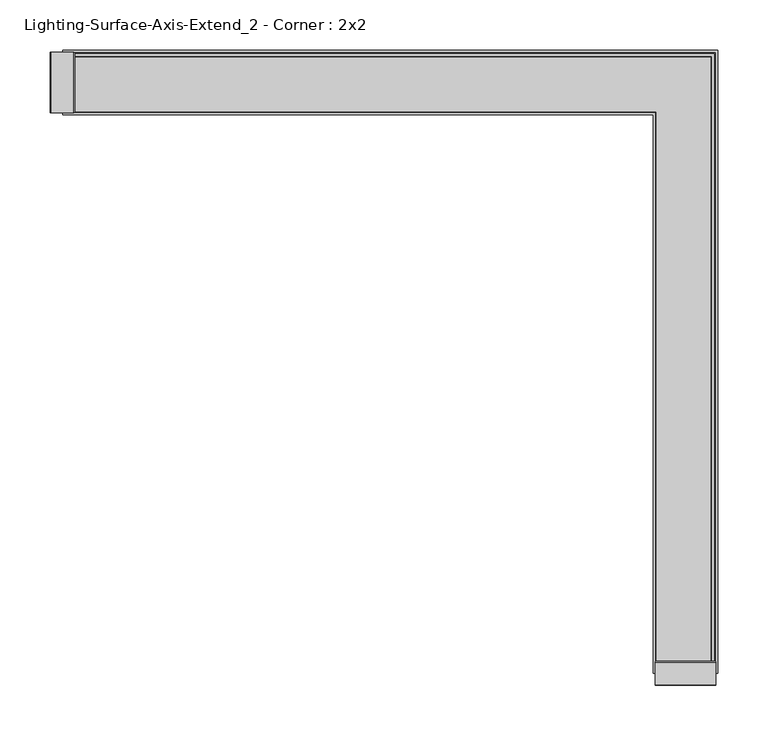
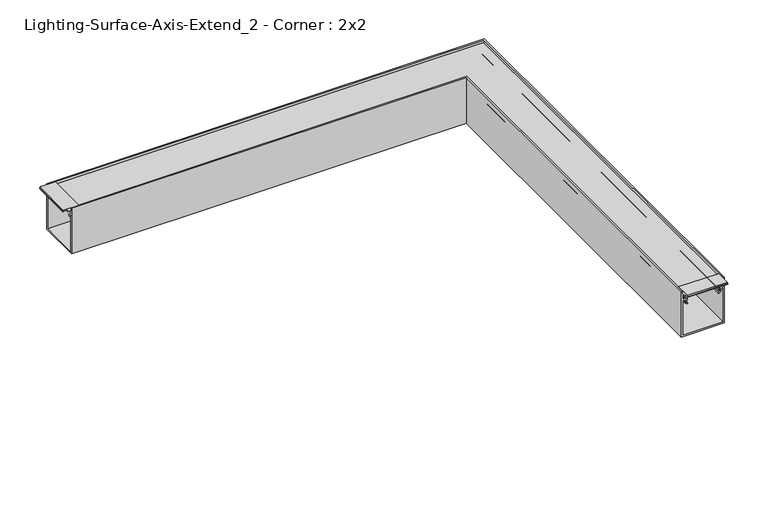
"""IFC4 building model written with IfcOpenShell, lengths in millimetres: light fixture geometry, Lighting-Surface-Axis-Extend_2 - Corner : 2x2."""

from ifc_helpers import new_model, si_unit, frame, origin, place, context, project, spatial, polyline, circle_curve, ellipse_curve, outline, extrude, source, transform, mapped, element, save
from ifc_brep_helpers import plane_surface, cylinder_surface, revolved_surface, advanced_brep


def lighting_surface_axis_extend_2_corner_2x2_7ba75d3a(model_context):
    return source(origin(), model_context, "Body", "SolidModel", [
        extrude(outline(polyline([(-574.6496, 70.3357861), (-574.6496, 68.86575), (-575.44335, 68.86575), (-575.44335, 69.6595), (-581.914, 69.6595), (-581.914, 66.8532981), (-591.5914, 66.8532981), (-591.5914, 69.6595), (-598.06205, 69.6595), (-598.06205, 68.86575), (-598.8558, 68.86575), (-598.8558, 70.3357861), (-597.9312563, 71.4375), (-575.5741437, 71.4375), (-574.6496, 70.3357861)])), frame((274.828, 0.0, 0.0), z_axis=(1.0, 0.0, 0.0), x_axis=(0.0, 1.0, 0.0)), (0.0, 0.0, 1.0), 59.944),
        extrude(outline(polyline([(70.3357861, -301.8536), (71.4375, -302.7781437), (71.4375, -325.1352563), (70.3357861, -326.0598), (68.86575, -326.0598), (68.86575, -325.26605), (69.6595, -325.26605), (69.6595, -318.7954), (66.8532981, -318.7954), (66.8532981, -309.118), (69.6595, -309.118), (69.6595, -302.64735), (68.86575, -302.64735), (68.86575, -301.8536), (70.3357861, -301.8536)])), frame((0.0, -29.972, 0.0), z_axis=(0.0, 1.0, 0.0), x_axis=(0.0, 0.0, 1.0)), (0.0, 0.0, 1.0), 59.944),
        advanced_brep(
        [(-304.8, -24.1727262, 66.5479991), (-304.8, -24.5114181, 60.0853737), (-304.8, -25.3818814, 53.4794903), (-304.8, -24.5665956, 51.9817575), (-304.8, -23.2119066, 50.7823555), (-304.8, -24.192808, 49.4543369), (-304.8, -25.7659952, 50.8471908), (-304.8, -27.1108807, 54.67776), (-304.8, -25.4753941, 58.7169658), (-304.8, -26.1394859, 60.5661789), (-304.8, -25.825992, 66.5479991), (-304.8, -28.829, 66.5479991), (-304.8, -28.829, 68.453), (-304.8, 28.829, 68.453), (-304.8, 28.829, 66.5479991), (-304.8, 25.825992, 66.5479991), (-304.8, 26.1394859, 60.5661789), (-304.8, 25.4753941, 58.7169658), (-304.8, 27.1108807, 54.67776), (-304.8, 25.7659952, 50.8471908), (-304.8, 24.192808, 49.4543369), (-304.8, 23.2119066, 50.7823555), (-304.8, 24.5665956, 51.9817575), (-304.8, 25.3818814, 53.4794903), (-304.8, 24.5114181, 60.0853737), (-304.8, 24.1727262, 66.5479991), (280.6272738, -586.7527, 66.5479991), (328.9727262, -586.7527, 66.5479991), (329.3114181, -586.7527, 60.0853737), (330.1818814, -586.7527, 53.4794903), (329.3665956, -586.7527, 51.9817575), (328.0119066, -586.7527, 50.7823555), (328.992808, -586.7527, 49.4543369), (330.5659952, -586.7527, 50.8471908), (331.9108807, -586.7527, 54.67776), (330.2753941, -586.7527, 58.7169658), (330.9394859, -586.7527, 60.5661789), (330.625992, -586.7527, 66.5479991), (333.629, -586.7527, 66.5479991), (333.629, -586.7527, 68.453), (275.971, -586.7527, 68.453), (275.971, -586.7527, 66.5479991), (278.974008, -586.7527, 66.5479991), (278.6605141, -586.7527, 60.5661789), (279.3246059, -586.7527, 58.7169658), (277.6891193, -586.7527, 54.67776), (279.0340048, -586.7527, 50.8471908), (280.607192, -586.7527, 49.4543369), (281.5880934, -586.7527, 50.7823555), (280.2334044, -586.7527, 51.9817575), (279.4181186, -586.7527, 53.4794903), (280.2885819, -586.7527, 60.0853737), (280.6272738, -24.1727262, 66.5479991), (280.2885819, -24.5114181, 60.0853737), (279.4181186, -25.3818814, 53.4794903), (280.2334044, -24.5665956, 51.9817575), (281.5880934, -23.2119066, 50.7823555), (280.607192, -24.192808, 49.4543369), (279.0340048, -25.7659952, 50.8471908), (277.6891193, -27.1108807, 54.67776), (279.3246059, -25.4753941, 58.7169658), (278.6605141, -26.1394859, 60.5661789), (278.974008, -25.825992, 66.5479991), (275.971, -28.829, 66.5479991), (275.971, -28.829, 68.453), (333.629, 28.829, 68.453), (333.629, 28.829, 66.5479991), (330.625992, 25.825992, 66.5479991), (330.9394859, 26.1394859, 60.5661789), (330.2753941, 25.4753941, 58.7169658), (331.9108807, 27.1108807, 54.67776), (330.5659952, 25.7659952, 50.8471908), (328.992808, 24.192808, 49.4543369), (328.0119066, 23.2119066, 50.7823555), (329.3665956, 24.5665956, 51.9817575), (330.1818814, 25.3818814, 53.4794903), (329.3114181, 24.5114181, 60.0853737), (328.9727262, 24.1727262, 66.5479991)],
        [
            (0, 1),
            (1, 2, circle_curve(frame((-304.8, -27.2542, 57.0865), z_axis=(-1.0, 0.0, 0.0), x_axis=(0.0, 0.6748971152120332, 0.7379118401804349)), 4.064)),
            (2, 3, circle_curve(frame((-304.8, -22.149344, 54.2683457), z_axis=(1.0, 0.0, 0.0), x_axis=(0.0, -0.9714904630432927, -0.23707863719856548)), 3.3274001)),
            (3, 4, circle_curve(frame((-304.8, -17.1303177, 59.0160708), z_axis=(1.0, 0.0, 0.0), x_axis=(0.0, -0.7264901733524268, -0.68717685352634)), 10.2362001)),
            (4, 5, circle_curve(frame((-304.8, -23.7023573, 50.1183462), z_axis=(-1.0, 0.0, 0.0), x_axis=(0.0, 0.5941256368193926, 0.8043722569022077)), 0.8255)),
            (5, 6, circle_curve(frame((-304.8, -17.1303169, 59.0160717), z_axis=(-1.0, 0.0, 0.0), x_axis=(0.0, -0.594125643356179, -0.8043722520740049)), 11.8872013)),
            (6, 7, circle_curve(frame((-304.8, -22.149344, 54.2683457), z_axis=(-1.0, 0.0, 0.0), x_axis=(0.0, -0.7264685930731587, -0.6871996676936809)), 4.9784001)),
            (7, 8, circle_curve(frame((-304.8, -27.2542, 57.0865), z_axis=(1.0, 0.0, 0.0), x_axis=(0.0, 0.05939464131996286, -0.9982345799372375)), 2.413)),
            (8, 9, circle_curve(frame((-304.8, -23.6029669, 60.4332456), z_axis=(-1.0, 0.0, 0.0), x_axis=(0.0, -0.7371760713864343, -0.675700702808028)), 2.54)),
            (9, 10),
            (10, 11),
            (11, 12),
            (12, 13),
            (13, 14),
            (14, 15),
            (15, 16),
            (16, 17, circle_curve(frame((-304.8, 23.6029669, 60.4332456), z_axis=(-1.0, 0.0, 0.0), x_axis=(0.0, 0.9986295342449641, 0.05233596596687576)), 2.54)),
            (17, 18, circle_curve(frame((-304.8, 27.2542, 57.0865), z_axis=(1.0, 0.0, 0.0), x_axis=(0.0, -0.7371760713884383, 0.6757007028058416)), 2.413)),
            (18, 19, circle_curve(frame((-304.8, 22.149344, 54.2683457), z_axis=(-1.0, 0.0, 0.0), x_axis=(0.0, 0.9966127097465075, 0.0822381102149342)), 4.9784001)),
            (19, 20, circle_curve(frame((-304.8, 17.1303169, 59.0160717), z_axis=(-1.0, 0.0, 0.0), x_axis=(0.0, 0.7264685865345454, -0.6871996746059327)), 11.8872013)),
            (20, 21, circle_curve(frame((-304.8, 23.7023573, 50.1183462), z_axis=(-1.0, 0.0, 0.0), x_axis=(0.0, 0.5941256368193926, -0.8043722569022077)), 0.8255)),
            (21, 22, circle_curve(frame((-304.8, 17.1303177, 59.0160708), z_axis=(1.0, 0.0, 0.0), x_axis=(0.0, 0.5941256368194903, -0.8043722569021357)), 10.2362001)),
            (22, 23, circle_curve(frame((-304.8, 22.149344, 54.2683457), z_axis=(1.0, 0.0, 0.0), x_axis=(0.0, 0.7265349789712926, -0.6871294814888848)), 3.3274001)),
            (23, 24, circle_curve(frame((-304.8, 27.2542, 57.0865), z_axis=(-1.0, 0.0, 0.0), x_axis=(0.0, -0.46070831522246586, -0.8875516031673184)), 4.064)),
            (24, 25),
            (25, 0),
            (26, 27),
            (27, 28),
            (28, 29, circle_curve(frame((332.0542, -586.7527, 57.0865), z_axis=(0.0, -1.0, 0.0), x_axis=(-0.46070831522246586, 0.0, -0.8875516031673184)), 4.064)),
            (29, 30, circle_curve(frame((326.949344, -586.7527, 54.2683457), z_axis=(0.0, 1.0, 0.0), x_axis=(0.7265349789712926, 0.0, -0.6871294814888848)), 3.3274001)),
            (30, 31, circle_curve(frame((321.9303177, -586.7527, 59.0160708), z_axis=(0.0, 1.0, 0.0), x_axis=(0.5941256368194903, 0.0, -0.8043722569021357)), 10.2362001)),
            (31, 32, circle_curve(frame((328.5023573, -586.7527, 50.1183462), z_axis=(0.0, -1.0, 0.0), x_axis=(0.5941256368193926, 0.0, -0.8043722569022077)), 0.8255)),
            (32, 33, circle_curve(frame((321.9303169, -586.7527, 59.0160717), z_axis=(0.0, -1.0, 0.0), x_axis=(0.7264685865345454, 0.0, -0.6871996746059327)), 11.8872013)),
            (33, 34, circle_curve(frame((326.949344, -586.7527, 54.2683457), z_axis=(0.0, -1.0, 0.0), x_axis=(0.9966127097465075, 0.0, 0.0822381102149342)), 4.9784001)),
            (34, 35, circle_curve(frame((332.0542, -586.7527, 57.0865), z_axis=(0.0, 1.0, 0.0), x_axis=(-0.7371760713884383, 0.0, 0.6757007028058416)), 2.413)),
            (35, 36, circle_curve(frame((328.4029669, -586.7527, 60.4332456), z_axis=(0.0, -1.0, 0.0), x_axis=(0.9986295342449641, 0.0, 0.05233596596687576)), 2.54)),
            (36, 37),
            (37, 38),
            (38, 39),
            (39, 40),
            (40, 41),
            (41, 42),
            (42, 43),
            (43, 44, circle_curve(frame((281.1970331, -586.7527, 60.4332456), z_axis=(0.0, -1.0, 0.0), x_axis=(-0.7371760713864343, 0.0, -0.675700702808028)), 2.54)),
            (44, 45, circle_curve(frame((277.5458, -586.7527, 57.0865), z_axis=(0.0, 1.0, 0.0), x_axis=(0.05939464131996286, 0.0, -0.9982345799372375)), 2.413)),
            (45, 46, circle_curve(frame((282.650656, -586.7527, 54.2683457), z_axis=(0.0, -1.0, 0.0), x_axis=(-0.7264685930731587, 0.0, -0.6871996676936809)), 4.9784001)),
            (46, 47, circle_curve(frame((287.6696831, -586.7527, 59.0160717), z_axis=(0.0, -1.0, 0.0), x_axis=(-0.594125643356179, 0.0, -0.8043722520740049)), 11.8872013)),
            (47, 48, circle_curve(frame((281.0976427, -586.7527, 50.1183462), z_axis=(0.0, -1.0, 0.0), x_axis=(0.5941256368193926, 0.0, 0.8043722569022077)), 0.8255)),
            (48, 49, circle_curve(frame((287.6696823, -586.7527, 59.0160708), z_axis=(0.0, 1.0, 0.0), x_axis=(-0.7264901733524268, 0.0, -0.68717685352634)), 10.2362001)),
            (49, 50, circle_curve(frame((282.650656, -586.7527, 54.2683457), z_axis=(0.0, 1.0, 0.0), x_axis=(-0.9714904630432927, 0.0, -0.23707863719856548)), 3.3274001)),
            (50, 51, circle_curve(frame((277.5458, -586.7527, 57.0865), z_axis=(0.0, -1.0, 0.0), x_axis=(0.6748971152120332, 0.0, 0.7379118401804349)), 4.064)),
            (51, 26),
            (0, 52),
            (52, 53),
            (53, 1),
            (53, 54, ellipse_curve(frame((277.5458, -27.2542, 57.0865), z_axis=(-0.7071067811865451, 0.7071067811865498, 0.0), x_axis=(-0.70710678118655, -0.7071067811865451, 0.0)), 5.7473639, 4.064)),
            (54, 2),
            (54, 55, ellipse_curve(frame((282.650656, -22.149344, 54.2683457), z_axis=(0.7071067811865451, -0.7071067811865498, 0.0), x_axis=(0.70710678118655, 0.7071067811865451, 0.0)), 4.7056543, 3.3274001)),
            (55, 3),
            (55, 56, ellipse_curve(frame((287.6696823, -17.1303177, 59.0160708), z_axis=(0.7071067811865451, -0.7071067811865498, 0.0), x_axis=(0.70710678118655, 0.7071067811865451, 0.0)), 14.476173, 10.2362001)),
            (56, 4),
            (56, 57, ellipse_curve(frame((281.0976427, -23.7023573, 50.1183462), z_axis=(-0.7071067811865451, 0.7071067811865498, 0.0), x_axis=(-0.70710678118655, -0.7071067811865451, 0.0)), 1.1674333, 0.8255)),
            (57, 5),
            (57, 58, ellipse_curve(frame((287.6696831, -17.1303169, 59.0160717), z_axis=(-0.7071067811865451, 0.7071067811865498, 0.0), x_axis=(-0.70710678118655, -0.7071067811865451, 0.0)), 16.8110412, 11.8872013)),
            (58, 6),
            (58, 59, ellipse_curve(frame((282.650656, -22.149344, 54.2683457), z_axis=(-0.7071067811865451, 0.7071067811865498, 0.0), x_axis=(-0.70710678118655, -0.7071067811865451, 0.0)), 7.0405209, 4.9784001)),
            (59, 7),
            (59, 60, ellipse_curve(frame((277.5458, -27.2542, 57.0865), z_axis=(0.7071067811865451, -0.7071067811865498, 0.0), x_axis=(0.70710678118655, 0.7071067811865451, 0.0)), 3.4124973, 2.413)),
            (60, 8),
            (60, 61, ellipse_curve(frame((281.1970331, -23.6029669, 60.4332456), z_axis=(-0.7071067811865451, 0.7071067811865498, 0.0), x_axis=(-0.70710678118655, -0.7071067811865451, 0.0)), 3.5921024, 2.54)),
            (61, 9),
            (61, 62),
            (62, 10),
            (62, 42),
            (41, 63),
            (63, 11),
            (63, 64),
            (64, 12),
            (64, 40),
            (39, 65),
            (65, 13),
            (65, 66),
            (66, 14),
            (66, 38),
            (37, 67),
            (67, 15),
            (67, 68),
            (68, 16),
            (68, 69, ellipse_curve(frame((328.4029669, 23.6029669, 60.4332456), z_axis=(-0.7071067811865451, 0.7071067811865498, 0.0), x_axis=(-0.70710678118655, -0.7071067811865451, 0.0)), 3.5921024, 2.54)),
            (69, 17),
            (69, 70, ellipse_curve(frame((332.0542, 27.2542, 57.0865), z_axis=(0.7071067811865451, -0.7071067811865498, 0.0), x_axis=(0.70710678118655, 0.7071067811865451, 0.0)), 3.4124973, 2.413)),
            (70, 18),
            (70, 71, ellipse_curve(frame((326.949344, 22.149344, 54.2683457), z_axis=(-0.7071067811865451, 0.7071067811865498, 0.0), x_axis=(-0.70710678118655, -0.7071067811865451, 0.0)), 7.0405209, 4.9784001)),
            (71, 19),
            (71, 72, ellipse_curve(frame((321.9303169, 17.1303169, 59.0160717), z_axis=(-0.7071067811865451, 0.7071067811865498, 0.0), x_axis=(-0.70710678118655, -0.7071067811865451, 0.0)), 16.8110412, 11.8872013)),
            (72, 20),
            (72, 73, ellipse_curve(frame((328.5023573, 23.7023573, 50.1183462), z_axis=(-0.7071067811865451, 0.7071067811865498, 0.0), x_axis=(-0.70710678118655, -0.7071067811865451, 0.0)), 1.1674333, 0.8255)),
            (73, 21),
            (73, 74, ellipse_curve(frame((321.9303177, 17.1303177, 59.0160708), z_axis=(0.7071067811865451, -0.7071067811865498, 0.0), x_axis=(0.70710678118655, 0.7071067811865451, 0.0)), 14.476173, 10.2362001)),
            (74, 22),
            (74, 75, ellipse_curve(frame((326.949344, 22.149344, 54.2683457), z_axis=(0.7071067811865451, -0.7071067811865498, 0.0), x_axis=(0.70710678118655, 0.7071067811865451, 0.0)), 4.7056543, 3.3274001)),
            (75, 23),
            (75, 76, ellipse_curve(frame((332.0542, 27.2542, 57.0865), z_axis=(-0.7071067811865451, 0.7071067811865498, 0.0), x_axis=(-0.70710678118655, -0.7071067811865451, 0.0)), 5.7473639, 4.064)),
            (76, 24),
            (76, 77),
            (77, 25),
            (77, 27),
            (26, 52),
            (51, 53),
            (50, 54),
            (49, 55),
            (48, 56),
            (47, 57),
            (46, 58),
            (45, 59),
            (44, 60),
            (43, 61),
            (36, 68),
            (35, 69),
            (34, 70),
            (33, 71),
            (32, 72),
            (31, 73),
            (30, 74),
            (29, 75),
            (28, 76),
        ],
        [
            plane_surface(frame((-304.8, 0.0, 0.0), z_axis=(-1.0, 0.0, 0.0), x_axis=(0.0, 0.0, 1.0))),
            plane_surface(frame((304.8, -586.7527, 0.0), z_axis=(0.0, -1.0, 0.0), x_axis=(0.0, 0.0, 1.0))),
            plane_surface(frame((-304.8, -24.1727262, 66.5479991), z_axis=(0.0, 0.9986295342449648, -0.05233596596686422), x_axis=(1.0, 0.0, 0.0))),
            cylinder_surface(frame((-304.8, -27.2542, 57.0865), z_axis=(-1.0, 0.0, 0.0), x_axis=(0.0, 0.6748971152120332, 0.7379118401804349)), 4.064),
            revolved_surface(polyline([(285.97805606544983, -25.3818814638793, 53.47949021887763), (-304.8, -25.3818814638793, 53.47949021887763)]), (-304.8, -22.149344, 54.2683457), (1.0000000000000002, 0.0, 0.0)),
            revolved_surface(polyline([(297.9058823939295, -24.566816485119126, 51.981991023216), (-304.8, -24.566816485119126, 51.981991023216)]), (-304.8, -17.1303177, 59.0160708), (1.0, 0.0, 0.0)),
            cylinder_surface(frame((-304.8, -23.7023573, 50.1183462), z_axis=(-1.0, 0.0, 0.0), x_axis=(0.0, 0.5941256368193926, 0.8043722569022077)), 0.8255),
            cylinder_surface(frame((-304.8, -17.1303169, 59.0160717), z_axis=(-1.0, 0.0, 0.0), x_axis=(0.0, -0.594125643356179, -0.8043722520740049)), 11.8872013),
            cylinder_surface(frame((-304.8, -22.149344, 54.2683457), z_axis=(-1.0, 0.0, 0.0), x_axis=(0.0, -0.7264685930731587, -0.6871996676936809)), 4.9784001),
            revolved_surface(polyline([(279.95879998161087, -27.11088073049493, 54.677759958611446), (-304.8, -27.11088073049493, 54.677759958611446)]), (-304.8, -27.2542, 57.0865), (1.0, 0.0, 0.0)),
            cylinder_surface(frame((-304.8, -23.6029669, 60.4332456), z_axis=(-1.0, 0.0, 0.0), x_axis=(0.0, -0.7371760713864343, -0.675700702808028)), 2.54),
            plane_surface(frame((-304.8, -26.1394859, 60.5661789), z_axis=(0.0, -0.9986295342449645, 0.05233596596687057), x_axis=(1.0, 0.0, 0.0))),
            plane_surface(frame((-304.8, -25.825992, 66.5479991), z_axis=(0.0, 0.0, -1.0), x_axis=(1.0, 0.0, 0.0))),
            plane_surface(frame((-304.8, -28.829, 66.5479991), z_axis=(0.0, -1.0, 0.0), x_axis=(1.0, 0.0, 0.0))),
            plane_surface(frame((-304.8, -28.829, 68.453), z_axis=(0.0, 0.0, 1.0), x_axis=(1.0, 0.0, 0.0))),
            plane_surface(frame((-304.8, 28.829, 68.453), z_axis=(0.0, 1.0, 0.0), x_axis=(1.0, 0.0, 0.0))),
            plane_surface(frame((-304.8, 28.829, 66.5479991), z_axis=(0.0, 0.0, -1.0), x_axis=(1.0, 0.0, 0.0))),
            plane_surface(frame((-304.8, 25.825992, 66.5479991), z_axis=(0.0, 0.9986295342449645, 0.05233596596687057), x_axis=(1.0, 0.0, 0.0))),
            cylinder_surface(frame((-304.8, 23.6029669, 60.4332456), z_axis=(-1.0, 0.0, 0.0), x_axis=(0.0, 0.9986295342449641, 0.05233596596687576)), 2.54),
            revolved_surface(polyline([(334.46719998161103, 25.4753941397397, 58.71696579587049), (-304.8, 25.4753941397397, 58.71696579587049)]), (-304.8, 27.2542, 57.0865), (1.0000000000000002, 0.0, 0.0)),
            cylinder_surface(frame((-304.8, 22.149344, 54.2683457), z_axis=(-1.0000000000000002, 0.0, 0.0), x_axis=(0.0, 0.9966127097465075, 0.0822381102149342)), 4.9784001),
            cylinder_surface(frame((-304.8, 17.1303169, 59.0160717), z_axis=(-1.0, 0.0, 0.0), x_axis=(0.0, 0.7264685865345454, -0.6871996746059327)), 11.8872013),
            cylinder_surface(frame((-304.8, 23.7023573, 50.1183462), z_axis=(-1.0, 0.0, 0.0), x_axis=(0.0, 0.5941256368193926, -0.8043722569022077)), 0.8255),
            revolved_surface(polyline([(332.1665177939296, 23.21190660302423, 50.782355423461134), (-304.8, 23.21190660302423, 50.782355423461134)]), (-304.8, 17.1303177, 59.0160708), (1.0, 0.0, 0.0)),
            revolved_surface(polyline([(330.2767440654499, 24.566816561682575, 51.98199099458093), (-304.8, 24.566816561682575, 51.98199099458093)]), (-304.8, 22.149344, 54.2683457), (1.0000000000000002, 0.0, 0.0)),
            cylinder_surface(frame((-304.8, 27.2542, 57.0865), z_axis=(-1.0, 0.0, 0.0), x_axis=(0.0, -0.46070831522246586, -0.8875516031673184)), 4.064),
            plane_surface(frame((-304.8, 24.5114181, 60.0853737), z_axis=(0.0, -0.9986295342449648, -0.05233596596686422), x_axis=(1.0, 0.0, 0.0))),
            plane_surface(frame((-304.8, 24.1727262, 66.5479991), z_axis=(0.0, 0.0, -1.0), x_axis=(1.0, 0.0, 0.0))),
            plane_surface(frame((280.6272738, -24.1727262, 66.5479991), z_axis=(0.9986295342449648, 0.0, -0.05233596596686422), x_axis=(0.0, -1.0, 0.0))),
            cylinder_surface(frame((277.5458, 0.0, 57.0865), z_axis=(0.0, 1.0, 0.0), x_axis=(0.6748971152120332, 0.0, 0.7379118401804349)), 4.064),
            revolved_surface(polyline([(279.41811853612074, -586.7527000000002, 53.47949021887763), (279.41811853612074, -18.82194393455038, 53.47949021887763)]), (282.650656, 0.0, 54.2683457), (0.0, -1.0000000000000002, 0.0)),
            revolved_surface(polyline([(280.23318351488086, -586.7527, 51.981991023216), (280.23318351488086, -6.894117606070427, 51.981991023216)]), (287.6696823, 0.0, 59.0160708), (0.0, -1.0, 0.0)),
            cylinder_surface(frame((281.0976427, 0.0, 50.1183462), z_axis=(0.0, 1.0, 0.0), x_axis=(0.5941256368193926, 0.0, 0.8043722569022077)), 0.8255),
            cylinder_surface(frame((287.6696831, 0.0, 59.0160717), z_axis=(0.0, 1.0, 0.0), x_axis=(-0.594125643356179, 0.0, -0.8043722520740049)), 11.8872013),
            cylinder_surface(frame((282.650656, 0.0, 54.2683457), z_axis=(0.0, 1.0, 0.0), x_axis=(-0.7264685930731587, 0.0, -0.6871996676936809)), 4.9784001),
            revolved_surface(polyline([(277.68911926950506, -586.7527, 54.677759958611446), (277.68911926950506, -24.841200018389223, 54.677759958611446)]), (277.5458, 0.0, 57.0865), (0.0, -1.0, 0.0)),
            cylinder_surface(frame((281.1970331, 0.0, 60.4332456), z_axis=(0.0, 1.0, 0.0), x_axis=(-0.7371760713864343, 0.0, -0.675700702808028)), 2.54),
            plane_surface(frame((278.6605141, -26.1394859, 60.5661789), z_axis=(-0.9986295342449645, 0.0, 0.05233596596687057), x_axis=(0.0, -1.0, 0.0))),
            plane_surface(frame((275.971, -28.829, 66.5479991), z_axis=(-1.0, 0.0, 0.0), x_axis=(0.0, -1.0, 0.0))),
            plane_surface(frame((333.629, 28.829, 68.453), z_axis=(1.0, 0.0, 0.0), x_axis=(0.0, -1.0, 0.0))),
            plane_surface(frame((330.625992, 25.825992, 66.5479991), z_axis=(0.9986295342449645, 0.0, 0.05233596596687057), x_axis=(0.0, -1.0, 0.0))),
            cylinder_surface(frame((328.4029669, 0.0, 60.4332456), z_axis=(0.0, 1.0, 0.0), x_axis=(0.9986295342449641, 0.0, 0.05233596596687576)), 2.54),
            revolved_surface(polyline([(330.27539413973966, -586.7527000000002, 58.71696579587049), (330.27539413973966, 29.667199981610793, 58.71696579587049)]), (332.0542, 0.0, 57.0865), (0.0, -1.0000000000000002, 0.0)),
            cylinder_surface(frame((326.949344, 0.0, 54.2683457), z_axis=(0.0, 1.0000000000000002, 0.0), x_axis=(0.9966127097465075, 0.0, 0.0822381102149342)), 4.9784001),
            cylinder_surface(frame((321.9303169, 0.0, 59.0160717), z_axis=(0.0, 1.0, 0.0), x_axis=(0.7264685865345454, 0.0, -0.6871996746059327)), 11.8872013),
            cylinder_surface(frame((328.5023573, 0.0, 50.1183462), z_axis=(0.0, 1.0, 0.0), x_axis=(0.5941256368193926, 0.0, -0.8043722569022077)), 0.8255),
            revolved_surface(polyline([(328.0119066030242, -586.7527, 50.782355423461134), (328.0119066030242, 27.36651779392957, 50.782355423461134)]), (321.9303177, 0.0, 59.0160708), (0.0, -1.0, 0.0)),
            revolved_surface(polyline([(329.3668165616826, -586.7527000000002, 51.98199099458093), (329.3668165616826, 25.476744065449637, 51.98199099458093)]), (326.949344, 0.0, 54.2683457), (0.0, -1.0000000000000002, 0.0)),
            cylinder_surface(frame((332.0542, 0.0, 57.0865), z_axis=(0.0, 1.0, 0.0), x_axis=(-0.46070831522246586, 0.0, -0.8875516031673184)), 4.064),
            plane_surface(frame((329.3114181, 24.5114181, 60.0853737), z_axis=(-0.9986295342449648, 0.0, -0.05233596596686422), x_axis=(0.0, -1.0, 0.0))),
        ],
        [
            (0, [[1, 2, 3, 4, 5, 6, 7, 8, 9, 10, 11, 12, 13, 14, 15, 16, 17, 18, 19, 20, 21, 22, 23, 24, 25, 26]]),
            (1, [[27, 28, 29, 30, 31, 32, 33, 34, 35, 36, 37, 38, 39, 40, 41, 42, 43, 44, 45, 46, 47, 48, 49, 50, 51, 52]]),
            (2, [[-1, 53, 54, 55]]),
            (3, [[-2, -55, 56, 57]]),
            (4, [[-3, -57, 58, 59]]),
            (5, [[-4, -59, 60, 61]]),
            (6, [[-5, -61, 62, 63]]),
            (7, [[-6, -63, 64, 65]]),
            (8, [[-7, -65, 66, 67]]),
            (9, [[-8, -67, 68, 69]]),
            (10, [[-9, -69, 70, 71]]),
            (11, [[-10, -71, 72, 73]]),
            (12, [[-11, -73, 74, -42, 75, 76]]),
            (13, [[-12, -76, 77, 78]]),
            (14, [[-13, -78, 79, -40, 80, 81]]),
            (15, [[-14, -81, 82, 83]]),
            (16, [[-15, -83, 84, -38, 85, 86]]),
            (17, [[-16, -86, 87, 88]]),
            (18, [[-17, -88, 89, 90]]),
            (19, [[-18, -90, 91, 92]]),
            (20, [[-19, -92, 93, 94]]),
            (21, [[-20, -94, 95, 96]]),
            (22, [[-21, -96, 97, 98]]),
            (23, [[-22, -98, 99, 100]]),
            (24, [[-23, -100, 101, 102]]),
            (25, [[-24, -102, 103, 104]]),
            (26, [[-25, -104, 105, 106]]),
            (27, [[-26, -106, 107, -27, 108, -53]]),
            (28, [[-54, -108, -52, 109]]),
            (29, [[-56, -109, -51, 110]]),
            (30, [[-58, -110, -50, 111]]),
            (31, [[-60, -111, -49, 112]]),
            (32, [[-62, -112, -48, 113]]),
            (33, [[-64, -113, -47, 114]]),
            (34, [[-66, -114, -46, 115]]),
            (35, [[-68, -115, -45, 116]]),
            (36, [[-70, -116, -44, 117]]),
            (37, [[-72, -117, -43, -74]]),
            (38, [[-77, -75, -41, -79]]),
            (39, [[-82, -80, -39, -84]]),
            (40, [[-87, -85, -37, 118]]),
            (41, [[-89, -118, -36, 119]]),
            (42, [[-91, -119, -35, 120]]),
            (43, [[-93, -120, -34, 121]]),
            (44, [[-95, -121, -33, 122]]),
            (45, [[-97, -122, -32, 123]]),
            (46, [[-99, -123, -31, 124]]),
            (47, [[-101, -124, -30, 125]]),
            (48, [[-103, -125, -29, 126]]),
            (49, [[-105, -126, -28, -107]]),
        ],
    ),
        advanced_brep(
        [(-313.9567, -29.972, 56.5277), (-313.9567, -29.972, 2.032), (-313.9567, 29.972, 2.032), (-313.9567, 29.972, 56.5277), (-313.9567, 28.1325797, 56.5277), (-313.9567, 25.8730546, 55.2231626), (-313.9567, 24.6896516, 57.4783682), (-313.9567, 28.067, 60.3123), (-313.9567, 28.067, 58.5597), (-313.9567, 29.972, 58.5597), (-313.9567, 29.972, 65.0875), (-313.9567, 28.067, 65.0875), (-313.9567, 28.067, 63.5635), (-313.9567, 26.416, 63.6500252), (-313.9567, 26.416, 66.3575), (-313.9567, 29.972, 66.3575), (-313.9567, 29.972, 71.4375), (-313.9567, 32.004, 71.4375), (-313.9567, 32.004, 0.0), (-313.9567, -32.004, 0.0), (-313.9567, -32.004, 71.4375), (-313.9567, -29.972, 71.4375), (-313.9567, -29.972, 66.3575), (-313.9567, -26.416, 66.3575), (-313.9567, -26.416, 63.6500252), (-313.9567, -28.067, 63.5635), (-313.9567, -28.067, 65.0875), (-313.9567, -29.972, 65.0875), (-313.9567, -29.972, 58.5597), (-313.9567, -28.067, 58.5597), (-313.9567, -28.067, 60.3123), (-313.9567, -24.6896516, 57.4783682), (-313.9567, -25.8730546, 55.2231626), (-313.9567, -28.1325797, 56.5277), (274.828, -586.7527, 56.5277), (276.6674203, -586.7527, 56.5277), (278.9269454, -586.7527, 55.2231626), (280.1103484, -586.7527, 57.4783682), (276.733, -586.7527, 60.3123), (276.733, -586.7527, 58.5597), (274.828, -586.7527, 58.5597), (274.828, -586.7527, 65.0875), (276.733, -586.7527, 65.0875), (276.733, -586.7527, 63.5635), (278.384, -586.7527, 63.6500252), (278.384, -586.7527, 66.3575), (274.828, -586.7527, 66.3575), (274.828, -586.7527, 71.4375), (272.796, -586.7527, 71.4375), (272.796, -586.7527, 0.0), (336.804, -586.7527, 0.0), (336.804, -586.7527, 71.4375), (334.772, -586.7527, 71.4375), (334.772, -586.7527, 66.3575), (331.216, -586.7527, 66.3575), (331.216, -586.7527, 63.6500252), (332.867, -586.7527, 63.5635), (332.867, -586.7527, 65.0875), (334.772, -586.7527, 65.0875), (334.772, -586.7527, 58.5597), (332.867, -586.7527, 58.5597), (332.867, -586.7527, 60.3123), (329.4896516, -586.7527, 57.4783682), (330.6730546, -586.7527, 55.2231626), (332.9325797, -586.7527, 56.5277), (334.772, -586.7527, 56.5277), (334.772, -586.7527, 2.032), (274.828, -586.7527, 2.032), (274.828, -29.972, 56.5277), (274.828, -29.972, 2.032), (334.772, 29.972, 2.032), (334.772, 29.972, 56.5277), (332.9325797, 28.1325797, 56.5277), (330.6730546, 25.8730546, 55.2231626), (329.4896516, 24.6896516, 57.4783682), (332.867, 28.067, 60.3123), (332.867, 28.067, 58.5597), (334.772, 29.972, 58.5597), (334.772, 29.972, 65.0875), (332.867, 28.067, 65.0875), (332.867, 28.067, 63.5635), (331.216, 26.416, 63.6500252), (331.216, 26.416, 66.3575), (334.772, 29.972, 66.3575), (334.772, 29.972, 71.4375), (336.804, 32.004, 71.4375), (336.804, 32.004, 0.0), (272.796, -32.004, 0.0), (272.796, -32.004, 71.4375), (274.828, -29.972, 71.4375), (274.828, -29.972, 66.3575), (278.384, -26.416, 66.3575), (278.384, -26.416, 63.6500252), (276.733, -28.067, 63.5635), (276.733, -28.067, 65.0875), (274.828, -29.972, 65.0875), (274.828, -29.972, 58.5597), (276.733, -28.067, 58.5597), (276.733, -28.067, 60.3123), (280.1103484, -24.6896516, 57.4783682), (278.9269454, -25.8730546, 55.2231626), (276.6674203, -28.1325797, 56.5277)],
        [
            (0, 1),
            (1, 2),
            (2, 3),
            (3, 4),
            (4, 5, circle_curve(frame((-313.9567, 26.6262297, 56.5277), z_axis=(-1.0, 0.0, 0.0), x_axis=(0.0, -0.5000000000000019, -0.8660254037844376)), 1.5063501)),
            (5, 6, circle_curve(frame((-313.9567, 27.0642121, 57.2863079), z_axis=(-1.0, 0.0, 0.0), x_axis=(0.0, -0.9967449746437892, 0.08061920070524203)), 2.382315)),
            (6, 7),
            (7, 8),
            (8, 9),
            (9, 10),
            (10, 11),
            (11, 12),
            (12, 13),
            (13, 14),
            (14, 15),
            (15, 16),
            (16, 17),
            (17, 18),
            (18, 19),
            (19, 20),
            (20, 21),
            (21, 22),
            (22, 23),
            (23, 24),
            (24, 25),
            (25, 26),
            (26, 27),
            (27, 28),
            (28, 29),
            (29, 30),
            (30, 31),
            (31, 32, circle_curve(frame((-313.9567, -27.0642121, 57.2863079), z_axis=(-1.0, 0.0, 0.0), x_axis=(0.0, 0.5000000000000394, -0.866025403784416)), 2.382315)),
            (32, 33, circle_curve(frame((-313.9567, -26.6262297, 56.5277), z_axis=(-1.0, 0.0, 0.0), x_axis=(0.0, -1.0, 0.0)), 1.5063501)),
            (33, 0),
            (34, 35),
            (35, 36, circle_curve(frame((278.1737703, -586.7527, 56.5277), z_axis=(0.0, -1.0, 0.0), x_axis=(-1.0, 0.0, 0.0)), 1.5063501)),
            (36, 37, circle_curve(frame((277.7357879, -586.7527, 57.2863079), z_axis=(0.0, -1.0, 0.0), x_axis=(0.5000000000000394, 0.0, -0.866025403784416)), 2.382315)),
            (37, 38),
            (38, 39),
            (39, 40),
            (40, 41),
            (41, 42),
            (42, 43),
            (43, 44),
            (44, 45),
            (45, 46),
            (46, 47),
            (47, 48),
            (48, 49),
            (49, 50),
            (50, 51),
            (51, 52),
            (52, 53),
            (53, 54),
            (54, 55),
            (55, 56),
            (56, 57),
            (57, 58),
            (58, 59),
            (59, 60),
            (60, 61),
            (61, 62),
            (62, 63, circle_curve(frame((331.8642121, -586.7527, 57.2863079), z_axis=(0.0, -1.0, 0.0), x_axis=(-0.9967449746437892, 0.0, 0.08061920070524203)), 2.382315)),
            (63, 64, circle_curve(frame((331.4262297, -586.7527, 56.5277), z_axis=(0.0, -1.0, 0.0), x_axis=(-0.5000000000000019, 0.0, -0.8660254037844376)), 1.5063501)),
            (64, 65),
            (65, 66),
            (66, 67),
            (67, 34),
            (0, 68),
            (68, 69),
            (69, 1),
            (69, 67),
            (66, 70),
            (70, 2),
            (70, 71),
            (71, 3),
            (71, 65),
            (64, 72),
            (72, 4),
            (72, 73, ellipse_curve(frame((331.4262297, 26.6262297, 56.5277), z_axis=(-0.7071067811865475, 0.7071067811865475, 0.0), x_axis=(-0.7071067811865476, -0.7071067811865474, 0.0)), 2.1303007, 1.5063501)),
            (73, 5),
            (73, 74, ellipse_curve(frame((331.8642121, 27.0642121, 57.2863079), z_axis=(-0.7071067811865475, 0.7071067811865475, 0.0), x_axis=(-0.7071067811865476, -0.7071067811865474, 0.0)), 3.3691022, 2.382315)),
            (74, 6),
            (74, 75),
            (75, 7),
            (75, 76),
            (76, 8),
            (76, 60),
            (59, 77),
            (77, 9),
            (77, 78),
            (78, 10),
            (78, 58),
            (57, 79),
            (79, 11),
            (79, 80),
            (80, 12),
            (80, 81),
            (81, 13),
            (81, 82),
            (82, 14),
            (82, 54),
            (53, 83),
            (83, 15),
            (83, 84),
            (84, 16),
            (84, 52),
            (51, 85),
            (85, 17),
            (85, 86),
            (86, 18),
            (86, 50),
            (49, 87),
            (87, 19),
            (87, 88),
            (88, 20),
            (88, 48),
            (47, 89),
            (89, 21),
            (89, 90),
            (90, 22),
            (90, 46),
            (45, 91),
            (91, 23),
            (91, 92),
            (92, 24),
            (92, 93),
            (93, 25),
            (93, 94),
            (94, 26),
            (94, 42),
            (41, 95),
            (95, 27),
            (95, 96),
            (96, 28),
            (96, 40),
            (39, 97),
            (97, 29),
            (97, 98),
            (98, 30),
            (98, 99),
            (99, 31),
            (99, 100, ellipse_curve(frame((277.7357879, -27.0642121, 57.2863079), z_axis=(-0.7071067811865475, 0.7071067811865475, 0.0), x_axis=(-0.7071067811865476, -0.7071067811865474, 0.0)), 3.3691022, 2.382315)),
            (100, 32),
            (100, 101, ellipse_curve(frame((278.1737703, -26.6262297, 56.5277), z_axis=(-0.7071067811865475, 0.7071067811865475, 0.0), x_axis=(-0.7071067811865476, -0.7071067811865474, 0.0)), 2.1303007, 1.5063501)),
            (101, 33),
            (101, 35),
            (34, 68),
            (63, 73),
            (62, 74),
            (61, 75),
            (56, 80),
            (55, 81),
            (44, 92),
            (43, 93),
            (38, 98),
            (37, 99),
            (36, 100),
        ],
        [
            plane_surface(frame((-313.9567, 0.0, 0.0), z_axis=(-1.0, 0.0, 0.0), x_axis=(0.0, 0.0, 1.0))),
            plane_surface(frame((304.8, -586.7527, 0.0), z_axis=(0.0, -1.0, 0.0), x_axis=(0.0, 0.0, 1.0))),
            plane_surface(frame((-313.9567, -29.972, 56.5277), z_axis=(0.0, 1.0, 0.0), x_axis=(1.0, 0.0, 0.0))),
            plane_surface(frame((-313.9567, -29.972, 2.032), z_axis=(0.0, 0.0, 1.0), x_axis=(1.0, 0.0, 0.0))),
            plane_surface(frame((-313.9567, 29.972, 2.032), z_axis=(0.0, -1.0, 0.0), x_axis=(1.0, 0.0, 0.0))),
            plane_surface(frame((-313.9567, 29.972, 56.5277), z_axis=(0.0, 0.0, -1.0), x_axis=(1.0, 0.0, 0.0))),
            cylinder_surface(frame((-313.9567, 26.6262297, 56.5277), z_axis=(-1.0, 0.0, 0.0), x_axis=(0.0, -0.5000000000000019, -0.8660254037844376)), 1.5063501),
            cylinder_surface(frame((-313.9567, 27.0642121, 57.2863079), z_axis=(-1.0000000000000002, 0.0, 0.0), x_axis=(0.0, -0.9967449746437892, 0.08061920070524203)), 2.382315),
            plane_surface(frame((-313.9567, 24.6896516, 57.4783682), z_axis=(0.0, -0.6427876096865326, 0.7660444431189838), x_axis=(1.0, 0.0, 0.0))),
            plane_surface(frame((-313.9567, 28.067, 60.3123), z_axis=(0.0, 1.0, 0.0), x_axis=(1.0, 0.0, 0.0))),
            plane_surface(frame((-313.9567, 28.067, 58.5597), z_axis=(0.0, 0.0, 1.0), x_axis=(1.0, 0.0, 0.0))),
            plane_surface(frame((-313.9567, 29.972, 58.5597), z_axis=(0.0, -1.0, 0.0), x_axis=(1.0, 0.0, 0.0))),
            plane_surface(frame((-313.9567, 29.972, 65.0875), z_axis=(0.0, 0.0, -1.0), x_axis=(1.0, 0.0, 0.0))),
            plane_surface(frame((-313.9567, 28.067, 65.0875), z_axis=(0.0, 1.0, 0.0), x_axis=(1.0, 0.0, 0.0))),
            plane_surface(frame((-313.9567, 28.067, 63.5635), z_axis=(0.0, -0.052335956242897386, -0.9986295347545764), x_axis=(1.0, 0.0, 0.0))),
            plane_surface(frame((-313.9567, 26.416, 63.6500252), z_axis=(0.0, -1.0, 0.0), x_axis=(1.0, 0.0, 0.0))),
            plane_surface(frame((-313.9567, 26.416, 66.3575), z_axis=(0.0, 0.0, 1.0), x_axis=(1.0, 0.0, 0.0))),
            plane_surface(frame((-313.9567, 29.972, 66.3575), z_axis=(0.0, -1.0, 0.0), x_axis=(1.0, 0.0, 0.0))),
            plane_surface(frame((-313.9567, 29.972, 71.4375), z_axis=(0.0, 0.0, 1.0), x_axis=(1.0, 0.0, 0.0))),
            plane_surface(frame((-313.9567, 32.004, 71.4375), z_axis=(0.0, 1.0, 0.0), x_axis=(1.0, 0.0, 0.0))),
            plane_surface(frame((-313.9567, 32.004, 0.0), z_axis=(0.0, 0.0, -1.0), x_axis=(1.0, 0.0, 0.0))),
            plane_surface(frame((-313.9567, -32.004, 0.0), z_axis=(0.0, -1.0, 0.0), x_axis=(1.0, 0.0, 0.0))),
            plane_surface(frame((-313.9567, -32.004, 71.4375), z_axis=(0.0, 0.0, 1.0), x_axis=(1.0, 0.0, 0.0))),
            plane_surface(frame((-313.9567, -29.972, 71.4375), z_axis=(0.0, 1.0, 0.0), x_axis=(1.0, 0.0, 0.0))),
            plane_surface(frame((-313.9567, -29.972, 66.3575), z_axis=(0.0, 0.0, 1.0), x_axis=(1.0, 0.0, 0.0))),
            plane_surface(frame((-313.9567, -26.416, 66.3575), z_axis=(0.0, 1.0, 0.0), x_axis=(1.0, 0.0, 0.0))),
            plane_surface(frame((-313.9567, -26.416, 63.6500252), z_axis=(0.0, 0.052335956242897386, -0.9986295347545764), x_axis=(1.0, 0.0, 0.0))),
            plane_surface(frame((-313.9567, -28.067, 63.5635), z_axis=(0.0, -1.0, 0.0), x_axis=(1.0, 0.0, 0.0))),
            plane_surface(frame((-313.9567, -28.067, 65.0875), z_axis=(0.0, 0.0, -1.0), x_axis=(1.0, 0.0, 0.0))),
            plane_surface(frame((-313.9567, -29.972, 65.0875), z_axis=(0.0, 1.0, 0.0), x_axis=(1.0, 0.0, 0.0))),
            plane_surface(frame((-313.9567, -29.972, 58.5597), z_axis=(0.0, 0.0, 1.0), x_axis=(1.0, 0.0, 0.0))),
            plane_surface(frame((-313.9567, -28.067, 58.5597), z_axis=(0.0, -1.0, 0.0), x_axis=(1.0, 0.0, 0.0))),
            plane_surface(frame((-313.9567, -28.067, 60.3123), z_axis=(0.0, 0.6427876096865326, 0.7660444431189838), x_axis=(1.0, 0.0, 0.0))),
            cylinder_surface(frame((-313.9567, -27.0642121, 57.2863079), z_axis=(-1.0, 0.0, 0.0), x_axis=(0.0, 0.5000000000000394, -0.866025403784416)), 2.382315),
            cylinder_surface(frame((-313.9567, -26.6262297, 56.5277), z_axis=(-1.0, 0.0, 0.0), x_axis=(0.0, -1.0, 0.0)), 1.5063501),
            plane_surface(frame((-313.9567, -28.1325797, 56.5277), z_axis=(0.0, 0.0, -1.0), x_axis=(1.0, 0.0, 0.0))),
            plane_surface(frame((274.828, -29.972, 56.5277), z_axis=(1.0, 0.0, 0.0), x_axis=(0.0, -1.0, 0.0))),
            plane_surface(frame((334.772, 29.972, 2.032), z_axis=(-1.0, 0.0, 0.0), x_axis=(0.0, -1.0, 0.0))),
            cylinder_surface(frame((331.4262297, 0.0, 56.5277), z_axis=(0.0, 1.0, 0.0), x_axis=(-0.5000000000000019, 0.0, -0.8660254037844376)), 1.5063501),
            cylinder_surface(frame((331.8642121, 0.0, 57.2863079), z_axis=(0.0, 1.0000000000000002, 0.0), x_axis=(-0.9967449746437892, 0.0, 0.08061920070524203)), 2.382315),
            plane_surface(frame((329.4896516, 24.6896516, 57.4783682), z_axis=(-0.6427876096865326, 0.0, 0.7660444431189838), x_axis=(0.0, -1.0, 0.0))),
            plane_surface(frame((332.867, 28.067, 60.3123), z_axis=(1.0, 0.0, 0.0), x_axis=(0.0, -1.0, 0.0))),
            plane_surface(frame((334.772, 29.972, 58.5597), z_axis=(-1.0, 0.0, 0.0), x_axis=(0.0, -1.0, 0.0))),
            plane_surface(frame((332.867, 28.067, 65.0875), z_axis=(1.0, 0.0, 0.0), x_axis=(0.0, -1.0, 0.0))),
            plane_surface(frame((332.867, 28.067, 63.5635), z_axis=(-0.052335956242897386, 0.0, -0.9986295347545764), x_axis=(0.0, -1.0, 0.0))),
            plane_surface(frame((331.216, 26.416, 63.6500252), z_axis=(-1.0, 0.0, 0.0), x_axis=(0.0, -1.0, 0.0))),
            plane_surface(frame((334.772, 29.972, 66.3575), z_axis=(-1.0, 0.0, 0.0), x_axis=(0.0, -1.0, 0.0))),
            plane_surface(frame((336.804, 32.004, 71.4375), z_axis=(1.0, 0.0, 0.0), x_axis=(0.0, -1.0, 0.0))),
            plane_surface(frame((272.796, -32.004, 0.0), z_axis=(-1.0, 0.0, 0.0), x_axis=(0.0, -1.0, 0.0))),
            plane_surface(frame((274.828, -29.972, 71.4375), z_axis=(1.0, 0.0, 0.0), x_axis=(0.0, -1.0, 0.0))),
            plane_surface(frame((278.384, -26.416, 66.3575), z_axis=(1.0, 0.0, 0.0), x_axis=(0.0, -1.0, 0.0))),
            plane_surface(frame((278.384, -26.416, 63.6500252), z_axis=(0.052335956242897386, 0.0, -0.9986295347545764), x_axis=(0.0, -1.0, 0.0))),
            plane_surface(frame((276.733, -28.067, 63.5635), z_axis=(-1.0, 0.0, 0.0), x_axis=(0.0, -1.0, 0.0))),
            plane_surface(frame((274.828, -29.972, 65.0875), z_axis=(1.0, 0.0, 0.0), x_axis=(0.0, -1.0, 0.0))),
            plane_surface(frame((276.733, -28.067, 58.5597), z_axis=(-1.0, 0.0, 0.0), x_axis=(0.0, -1.0, 0.0))),
            plane_surface(frame((276.733, -28.067, 60.3123), z_axis=(0.6427876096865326, 0.0, 0.7660444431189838), x_axis=(0.0, -1.0, 0.0))),
            cylinder_surface(frame((277.7357879, 0.0, 57.2863079), z_axis=(0.0, 1.0, 0.0), x_axis=(0.5000000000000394, 0.0, -0.866025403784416)), 2.382315),
            cylinder_surface(frame((278.1737703, 0.0, 56.5277), z_axis=(0.0, 1.0, 0.0), x_axis=(-1.0, 0.0, 0.0)), 1.5063501),
        ],
        [
            (0, [[1, 2, 3, 4, 5, 6, 7, 8, 9, 10, 11, 12, 13, 14, 15, 16, 17, 18, 19, 20, 21, 22, 23, 24, 25, 26, 27, 28, 29, 30, 31, 32, 33, 34]]),
            (1, [[35, 36, 37, 38, 39, 40, 41, 42, 43, 44, 45, 46, 47, 48, 49, 50, 51, 52, 53, 54, 55, 56, 57, 58, 59, 60, 61, 62, 63, 64, 65, 66, 67, 68]]),
            (2, [[-1, 69, 70, 71]]),
            (3, [[-2, -71, 72, -67, 73, 74]]),
            (4, [[-3, -74, 75, 76]]),
            (5, [[-4, -76, 77, -65, 78, 79]]),
            (6, [[-5, -79, 80, 81]]),
            (7, [[-6, -81, 82, 83]]),
            (8, [[-7, -83, 84, 85]]),
            (9, [[-8, -85, 86, 87]]),
            (10, [[-9, -87, 88, -60, 89, 90]]),
            (11, [[-10, -90, 91, 92]]),
            (12, [[-11, -92, 93, -58, 94, 95]]),
            (13, [[-12, -95, 96, 97]]),
            (14, [[-13, -97, 98, 99]]),
            (15, [[-14, -99, 100, 101]]),
            (16, [[-15, -101, 102, -54, 103, 104]]),
            (17, [[-16, -104, 105, 106]]),
            (18, [[-17, -106, 107, -52, 108, 109]]),
            (19, [[-18, -109, 110, 111]]),
            (20, [[-19, -111, 112, -50, 113, 114]]),
            (21, [[-20, -114, 115, 116]]),
            (22, [[-21, -116, 117, -48, 118, 119]]),
            (23, [[-22, -119, 120, 121]]),
            (24, [[-23, -121, 122, -46, 123, 124]]),
            (25, [[-24, -124, 125, 126]]),
            (26, [[-25, -126, 127, 128]]),
            (27, [[-26, -128, 129, 130]]),
            (28, [[-27, -130, 131, -42, 132, 133]]),
            (29, [[-28, -133, 134, 135]]),
            (30, [[-29, -135, 136, -40, 137, 138]]),
            (31, [[-30, -138, 139, 140]]),
            (32, [[-31, -140, 141, 142]]),
            (33, [[-32, -142, 143, 144]]),
            (34, [[-33, -144, 145, 146]]),
            (35, [[-34, -146, 147, -35, 148, -69]]),
            (36, [[-70, -148, -68, -72]]),
            (37, [[-75, -73, -66, -77]]),
            (38, [[-80, -78, -64, 149]]),
            (39, [[-82, -149, -63, 150]]),
            (40, [[-84, -150, -62, 151]]),
            (41, [[-86, -151, -61, -88]]),
            (42, [[-91, -89, -59, -93]]),
            (43, [[-96, -94, -57, 152]]),
            (44, [[-98, -152, -56, 153]]),
            (45, [[-100, -153, -55, -102]]),
            (46, [[-105, -103, -53, -107]]),
            (47, [[-110, -108, -51, -112]]),
            (48, [[-115, -113, -49, -117]]),
            (49, [[-120, -118, -47, -122]]),
            (50, [[-125, -123, -45, 154]]),
            (51, [[-127, -154, -44, 155]]),
            (52, [[-129, -155, -43, -131]]),
            (53, [[-134, -132, -41, -136]]),
            (54, [[-139, -137, -39, 156]]),
            (55, [[-141, -156, -38, 157]]),
            (56, [[-143, -157, -37, 158]]),
            (57, [[-145, -158, -36, -147]]),
        ],
    ),
    ])


if __name__ == "__main__":
    model = new_model("IFC4")
    model_context = context("Model", 3, world=origin())
    ifc_project = project(units=[si_unit("LENGTHUNIT", "METRE", prefix="MILLI")], contexts=[model_context])
    site = spatial("IfcSite", under=ifc_project)
    building = spatial("IfcBuilding", under=site)
    placement = place(None, origin())
    lighting_surface_axis_extend_2_corner_2x2_shape = lighting_surface_axis_extend_2_corner_2x2_7ba75d3a(model_context)
    element("IfcLightFixture", 1, ObjectType="Lighting-Surface-Axis-Extend_2 - Corner : 2x2", at=placement, inside=building, context=model_context, shape_type="MappedRepresentation", body=[
        mapped(lighting_surface_axis_extend_2_corner_2x2_shape, transform((0.0, 0.0, 0.0), x_axis=(1.0, 0.0, 0.0), y_axis=(0.0, 1.0, 0.0), z_axis=(0.0, 0.0, 1.0))),
    ])
    save(model, "model.ifc")
